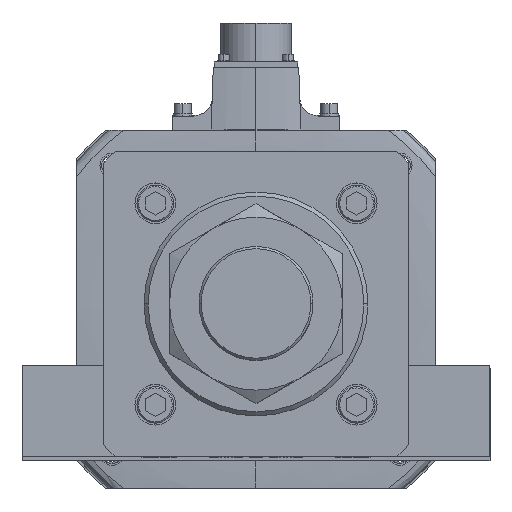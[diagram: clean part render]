
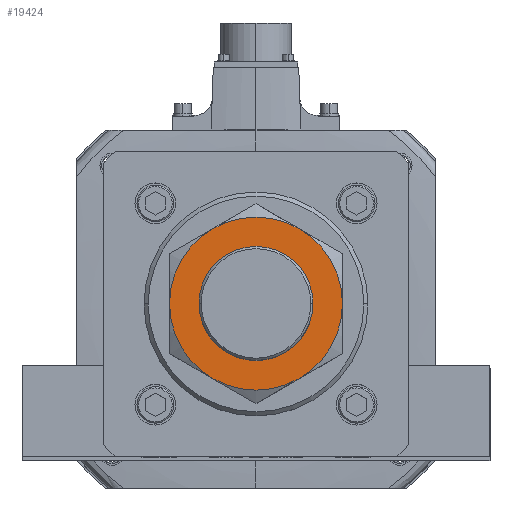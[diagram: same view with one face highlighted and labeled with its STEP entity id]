
A CAD part, top view. The second image highlights one B-rep face of the part: STEP entity #19424.
In plain terms, the highlighted planar face has unit normal (0, 0, 1).
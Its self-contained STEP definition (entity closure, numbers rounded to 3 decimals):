
#867 = VERTEX_POINT ( 'NONE', #15632 ) ;
#1090 = AXIS2_PLACEMENT_3D ( 'NONE', #11103, #28366, #44828 ) ;
#2819 = DIRECTION ( 'NONE',  ( 1., 0., 0. ) ) ;
#3100 = EDGE_CURVE ( 'NONE', #10989, #32572, #36485, .T. ) ;
#3422 = DIRECTION ( 'NONE',  ( 1., 0., 0. ) ) ;
#3569 = CARTESIAN_POINT ( 'NONE',  ( 42.5, 0., 34. ) ) ;
#5190 = ORIENTED_EDGE ( 'NONE', *, *, #31101, .F. ) ;
#6683 = CARTESIAN_POINT ( 'NONE',  ( -28., 0., 34. ) ) ;
#6972 = PLANE ( 'NONE',  #42344 ) ;
#7250 = CIRCLE ( 'NONE', #20354, 28. ) ;
#7511 = CARTESIAN_POINT ( 'NONE',  ( 0., 0., 34. ) ) ;
#7857 = EDGE_CURVE ( 'NONE', #32572, #38959, #37335, .T. ) ;
#8936 = EDGE_CURVE ( 'NONE', #48038, #10989, #32633, .T. ) ;
#10989 = VERTEX_POINT ( 'NONE', #18038 ) ;
#11094 = DIRECTION ( 'NONE',  ( 1., 0., 0. ) ) ;
#11103 = CARTESIAN_POINT ( 'NONE',  ( 0., 0., 34. ) ) ;
#11139 = CARTESIAN_POINT ( 'NONE',  ( 0., 0., 34. ) ) ;
#11272 = DIRECTION ( 'NONE',  ( 0., 0., 1. ) ) ;
#13454 = DIRECTION ( 'NONE',  ( -1., 0., 0. ) ) ;
#15632 = CARTESIAN_POINT ( 'NONE',  ( 21.25, 36.806, 34. ) ) ;
#15788 = DIRECTION ( 'NONE',  ( 1., 0., 0. ) ) ;
#17960 = ORIENTED_EDGE ( 'NONE', *, *, #23999, .F. ) ;
#18028 = ORIENTED_EDGE ( 'NONE', *, *, #55429, .F. ) ;
#18038 = CARTESIAN_POINT ( 'NONE',  ( -21.25, -36.806, 34. ) ) ;
#19242 = ORIENTED_EDGE ( 'NONE', *, *, #7857, .F. ) ;
#19424 = ADVANCED_FACE ( 'NONE', ( #46355, #22903 ), #6972, .T. ) ;
#19471 = AXIS2_PLACEMENT_3D ( 'NONE', #20104, #19574, #24083 ) ;
#19574 = DIRECTION ( 'NONE',  ( 0., 0., 1. ) ) ;
#20104 = CARTESIAN_POINT ( 'NONE',  ( 0., 0., 34. ) ) ;
#20354 = AXIS2_PLACEMENT_3D ( 'NONE', #20804, #29123, #15788 ) ;
#20804 = CARTESIAN_POINT ( 'NONE',  ( 0., 0., 34. ) ) ;
#21237 = ORIENTED_EDGE ( 'NONE', *, *, #51172, .F. ) ;
#21929 = ORIENTED_EDGE ( 'NONE', *, *, #28767, .F. ) ;
#22213 = AXIS2_PLACEMENT_3D ( 'NONE', #11139, #49188, #40561 ) ;
#22669 = ORIENTED_EDGE ( 'NONE', *, *, #3100, .F. ) ;
#22903 = FACE_BOUND ( 'NONE', #25822, .T. ) ;
#23999 = EDGE_CURVE ( 'NONE', #51848, #48038, #42026, .T. ) ;
#24083 = DIRECTION ( 'NONE',  ( 1., 0., 0. ) ) ;
#25359 = VERTEX_POINT ( 'NONE', #54433 ) ;
#25822 = EDGE_LOOP ( 'NONE', ( #18028, #21237 ) ) ;
#26800 = DIRECTION ( 'NONE',  ( 0., 0., -1. ) ) ;
#27613 = AXIS2_PLACEMENT_3D ( 'NONE', #32483, #45198, #11094 ) ;
#28366 = DIRECTION ( 'NONE',  ( 0., 0., -1. ) ) ;
#28767 = EDGE_CURVE ( 'NONE', #867, #51848, #38152, .T. ) ;
#28934 = AXIS2_PLACEMENT_3D ( 'NONE', #38091, #29687, #3422 ) ;
#29123 = DIRECTION ( 'NONE',  ( 0., 0., 1. ) ) ;
#29235 = AXIS2_PLACEMENT_3D ( 'NONE', #38400, #30015, #43063 ) ;
#29687 = DIRECTION ( 'NONE',  ( 0., 0., -1. ) ) ;
#30015 = DIRECTION ( 'NONE',  ( 0., 0., -1. ) ) ;
#30160 = CARTESIAN_POINT ( 'NONE',  ( -42.5, 0., 34. ) ) ;
#30760 = CARTESIAN_POINT ( 'NONE',  ( 0., 0., 34. ) ) ;
#31101 = EDGE_CURVE ( 'NONE', #38959, #867, #52795, .T. ) ;
#31150 = CIRCLE ( 'NONE', #19471, 28. ) ;
#32483 = CARTESIAN_POINT ( 'NONE',  ( 0., 0., 34. ) ) ;
#32572 = VERTEX_POINT ( 'NONE', #30160 ) ;
#32633 = CIRCLE ( 'NONE', #27613, 42.5 ) ;
#33768 = EDGE_LOOP ( 'NONE', ( #17960, #21929, #5190, #19242, #22669, #41516 ) ) ;
#35499 = VERTEX_POINT ( 'NONE', #6683 ) ;
#36485 = CIRCLE ( 'NONE', #29235, 42.5 ) ;
#36487 = CARTESIAN_POINT ( 'NONE',  ( -21.25, 36.806, 34. ) ) ;
#37335 = CIRCLE ( 'NONE', #47265, 42.5 ) ;
#38091 = CARTESIAN_POINT ( 'NONE',  ( 0., 0., 34. ) ) ;
#38152 = CIRCLE ( 'NONE', #22213, 42.5 ) ;
#38400 = CARTESIAN_POINT ( 'NONE',  ( 0., 0., 34. ) ) ;
#38959 = VERTEX_POINT ( 'NONE', #36487 ) ;
#40561 = DIRECTION ( 'NONE',  ( 1., 0., 0. ) ) ;
#41516 = ORIENTED_EDGE ( 'NONE', *, *, #8936, .F. ) ;
#42026 = CIRCLE ( 'NONE', #28934, 42.5 ) ;
#42344 = AXIS2_PLACEMENT_3D ( 'NONE', #7511, #11272, #2819 ) ;
#43063 = DIRECTION ( 'NONE',  ( 1., 0., 0. ) ) ;
#44828 = DIRECTION ( 'NONE',  ( 1., 0., 0. ) ) ;
#45198 = DIRECTION ( 'NONE',  ( 0., 0., -1. ) ) ;
#45657 = CARTESIAN_POINT ( 'NONE',  ( 21.25, -36.806, 34. ) ) ;
#46355 = FACE_OUTER_BOUND ( 'NONE', #33768, .T. ) ;
#47265 = AXIS2_PLACEMENT_3D ( 'NONE', #30760, #26800, #13454 ) ;
#48038 = VERTEX_POINT ( 'NONE', #45657 ) ;
#49188 = DIRECTION ( 'NONE',  ( 0., 0., -1. ) ) ;
#51172 = EDGE_CURVE ( 'NONE', #25359, #35499, #31150, .T. ) ;
#51848 = VERTEX_POINT ( 'NONE', #3569 ) ;
#52795 = CIRCLE ( 'NONE', #1090, 42.5 ) ;
#54433 = CARTESIAN_POINT ( 'NONE',  ( 28., 0., 34. ) ) ;
#55429 = EDGE_CURVE ( 'NONE', #35499, #25359, #7250, .T. ) ;
